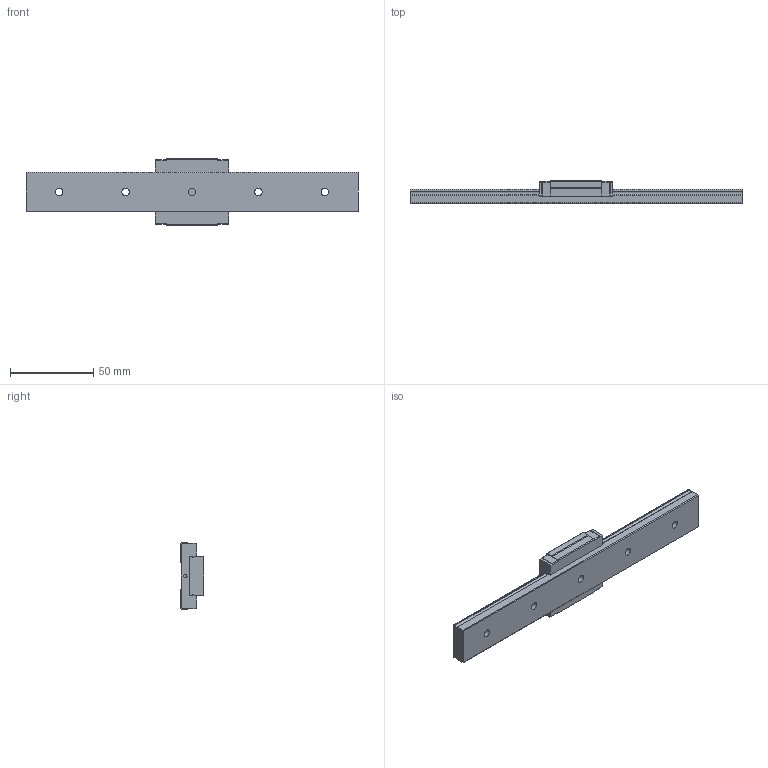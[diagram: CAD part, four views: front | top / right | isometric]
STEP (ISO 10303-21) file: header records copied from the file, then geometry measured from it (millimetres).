
FILE_DESCRIPTION(/* description */ ('STEP AP203'),/* implementation_level */ '2;1');
FILE_NAME(/* name */ 'RSX12M1WUUE-200LM_G20_0_Without grease nipple_77-75_0_0_0_1',/* time_stamp */ '2024-05-23T08:36:57+02:00',/* author */ ('License CC BY-ND 4.0'),/* organization */ ('CADENAS'),/* preprocessor_version */ 'ST-DEVELOPER v19.3',/* originating_system */ 'PARTsolutions',/* authorisation */ ' ');
FILE_SCHEMA (('CONFIG_CONTROL_DESIGN'));
Length unit declared in the file: millimetre
Products named in the file (3): RSX12M1WUUE-200LM_G20_0_Without grease nipple_77-75_0_0_0_1; RSX12M1W20020 Track; RSX12M1WUU1 Slider
Assembly tree (2 placements, depth 2):
  RSX12M1WUUE-200LM_G20_0_Without grease nipple_77-75_0_0_0_1
    RSX12M1W20020 Track
    RSX12M1WUU1 Slider
Bounding box: 200 x 14 x 40 mm (x, y, z)
Volume: 50892.7 mm3; surface area: 19695.6 mm2
Topology: 2 solids, 2 shells, 119 faces, 312 edges, 204 vertices
Faces by surface type: plane 83, cylinder 28, cone 8
Full cylindrical faces by diameter (mm): 2 x2, 2.459 x4, 4.5 x5, 8 x5
Entity records: 3549 total; most frequent: CARTESIAN_POINT 602, DIRECTION 584, ORIENTED_EDGE 560, EDGE_CURVE 280, LINE 220, VECTOR 220, VERTEX_POINT 200, AXIS2_PLACEMENT_3D 182
